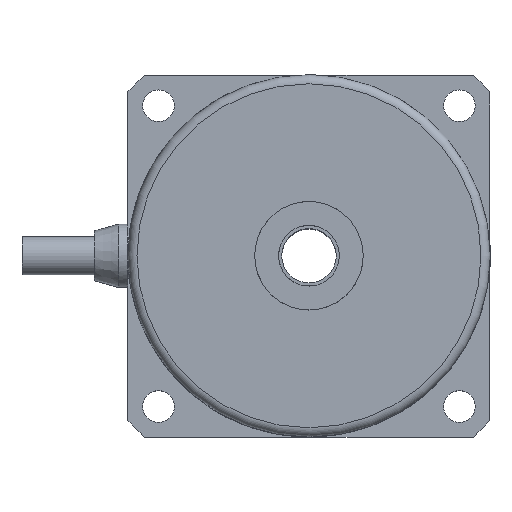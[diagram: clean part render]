
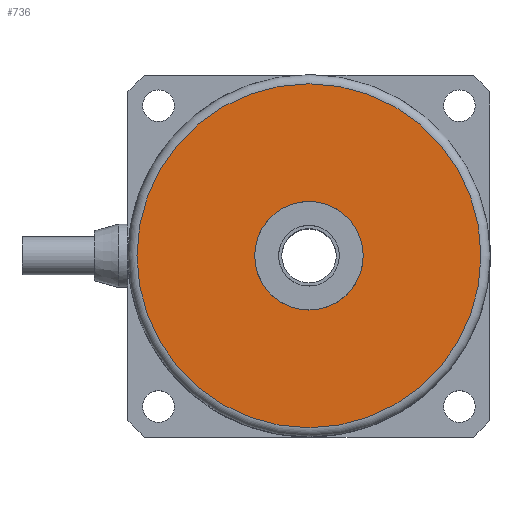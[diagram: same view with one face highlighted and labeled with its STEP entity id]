
A CAD part, top view. The second image highlights one B-rep face of the part: STEP entity #736.
In plain terms, the highlighted planar face has unit normal (0, 0, 1) as drawn and (0, 0, -1) by its records, which use the part's own axes.
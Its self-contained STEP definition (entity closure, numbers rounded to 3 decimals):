
#736=ADVANCED_FACE('',(#1433,#1434),#1435,.F.);
#1433=FACE_BOUND('',#2258,.T.);
#1434=FACE_OUTER_BOUND('',#2259,.T.);
#1435=PLANE('',#2260);
#2258=EDGE_LOOP('',(#3461));
#2259=EDGE_LOOP('',(#3462));
#2260=AXIS2_PLACEMENT_3D('',#3463,#3464,#3465);
#3461=ORIENTED_EDGE('',*,*,#4619,.T.);
#3462=ORIENTED_EDGE('',*,*,#4609,.T.);
#3463=CARTESIAN_POINT('',(0.0,0.0,0.0));
#3464=DIRECTION('',(0.0,0.0,1.0));
#3465=DIRECTION('',(1.0,0.0,0.0));
#4609=EDGE_CURVE('',#5343,#5343,#5344,.F.);
#4619=EDGE_CURVE('',#5357,#5357,#5358,.T.);
#5343=VERTEX_POINT('',#6584);
#5344=CIRCLE('',#6585,19.0);
#5357=VERTEX_POINT('',#6598);
#5358=CIRCLE('',#6599,6.0);
#6584=CARTESIAN_POINT('',(19.0,0.,0.0));
#6585=AXIS2_PLACEMENT_3D('',#7969,#7970,#7971);
#6598=CARTESIAN_POINT('',(-6.0,0.0,0.0));
#6599=AXIS2_PLACEMENT_3D('',#7981,#7982,#7983);
#7969=CARTESIAN_POINT('',(0.0,0.0,0.0));
#7970=DIRECTION('',(0.0,0.0,1.0));
#7971=DIRECTION('',(1.0,0.0,0.0));
#7981=CARTESIAN_POINT('',(0.0,0.0,0.0));
#7982=DIRECTION('',(0.0,0.0,1.0));
#7983=DIRECTION('',(-1.0,0.0,0.0));
